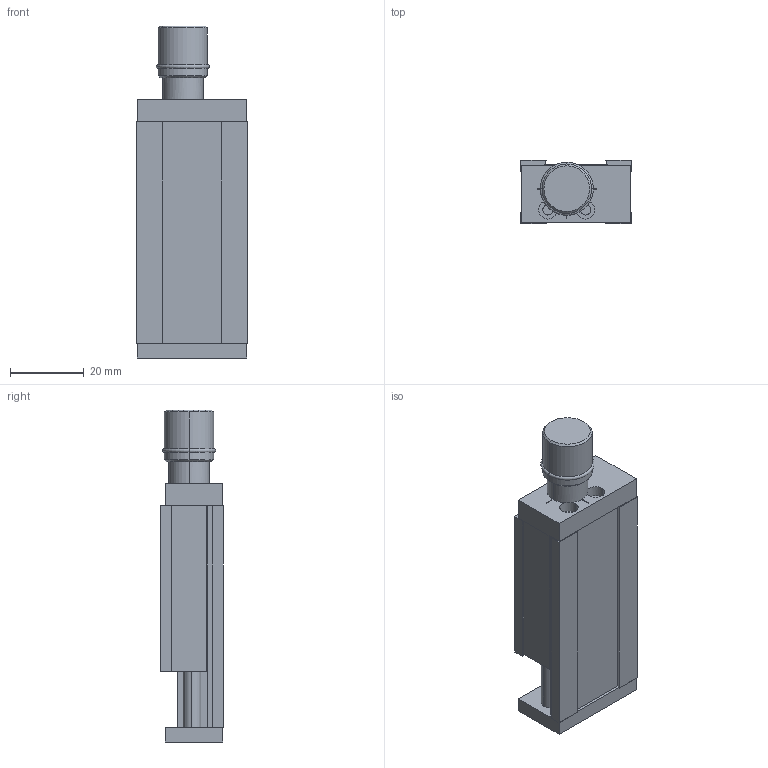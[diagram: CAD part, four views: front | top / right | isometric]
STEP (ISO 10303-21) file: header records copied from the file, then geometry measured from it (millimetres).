
FILE_DESCRIPTION (( 'STEP AP203' ), '1' );
FILE_NAME ('domiLINE 30 Hub 15.STEP', '2004-08-13T07:27:24', ( '' ), ( '' ), 'SwSTEP 2.0', 'SolidWorks 2004073', '' );
FILE_SCHEMA (( 'CONFIG_CONTROL_DESIGN' ));
Length unit declared in the file: millimetre
Products named in the file (3): domiLINE 30 Hub 15; Innenteil 30-+-D007616_ _L=60; Aussen 30 lght-+-D007617_ _Standard
Assembly tree (2 placements, depth 2):
  domiLINE 30 Hub 15
    Innenteil 30-+-D007616_ _L=60
    Aussen 30 lght-+-D007617_ _Standard
Bounding box: 30 x 17 x 90 mm (x, y, z)
Volume: 27387.2 mm3; surface area: 18258 mm2
Topology: 2 solids, 3 shells, 156 faces, 394 edges, 256 vertices
Faces by surface type: plane 102, cylinder 48, cone 4, torus 2
Entity records: 5003 total; most frequent: DIRECTION 826, CARTESIAN_POINT 811, ORIENTED_EDGE 788, EDGE_CURVE 394, VECTOR 284, LINE 284, AXIS2_PLACEMENT_3D 271, VERTEX_POINT 256
